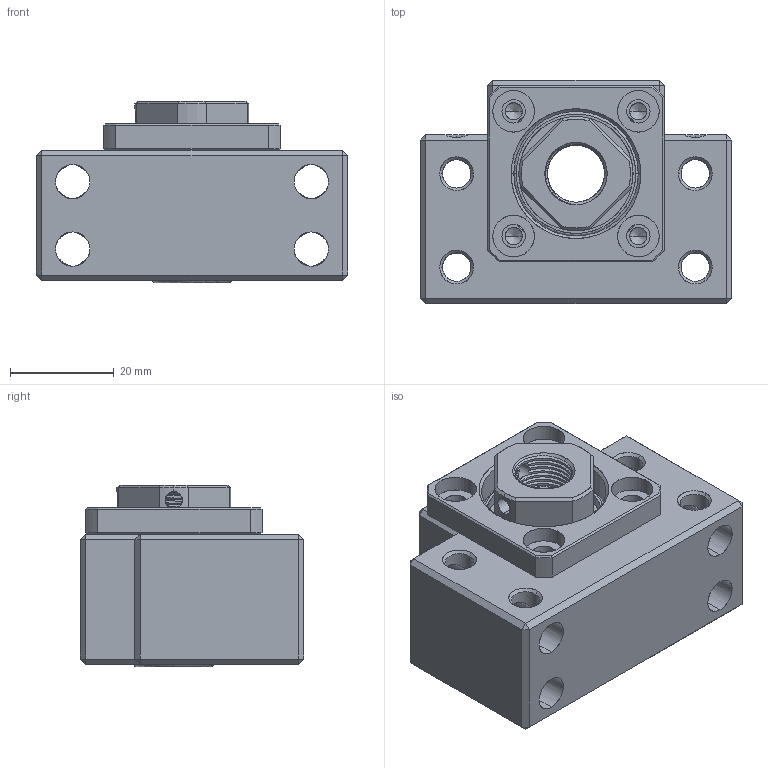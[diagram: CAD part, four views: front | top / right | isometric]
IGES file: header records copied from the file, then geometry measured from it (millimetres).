
Start section: SolidWorks IGES file using analytic representation for surfaces
Global section: file name: Z:\Accessories\_GC_!!!\SYK\Support unit\BK\BK12.IGS; native system: SolidWorks 2015; preprocessor: SolidWorks 2015; author: User; date: 170504.145120; units: millimetre
Bounding box: 60 x 43 x 35 mm (x, y, z)
Surface area: 28623.4 mm2 (no closed solid volume)
Topology: 0 solids, 0 shells, 486 faces, 7253 edges, 7150 vertices
Faces by surface type: bspline 258, revolution 228
